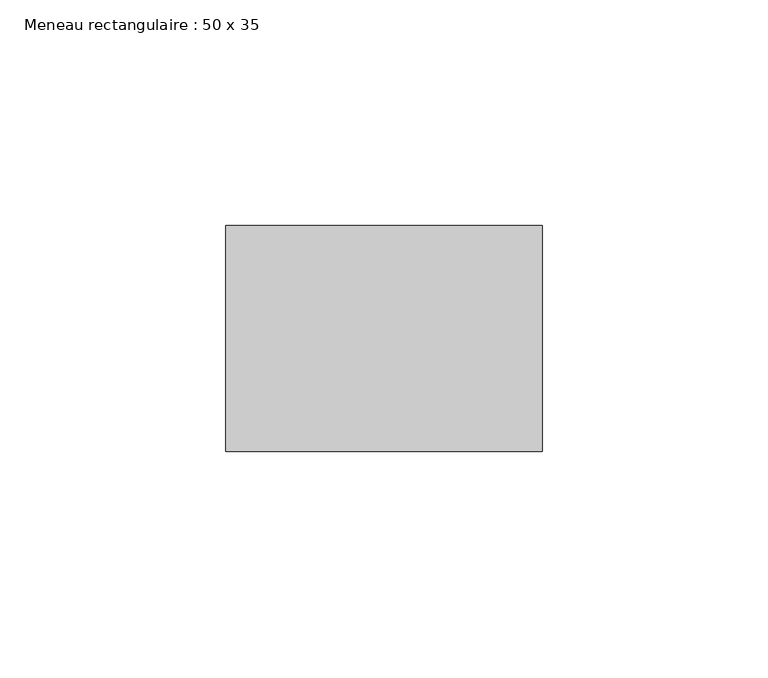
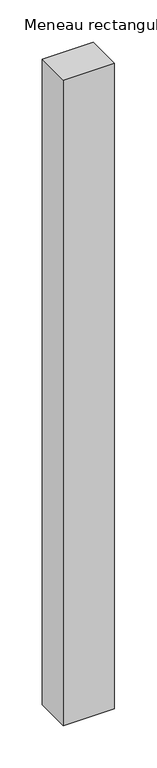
"""IFC4 building model written with IfcOpenShell, lengths in millimetres: member geometry, Meneau rectangulaire : 50 x 35."""

from ifc_helpers import new_model, si_unit, frame, origin, place, context, project, spatial, polyline, outline, extrude, source, transform, mapped, element, save


def meneau_rectangulaire_50_x_35_28dc46d5(model_context):
    return source(origin(), model_context, "Body", "SweptSolid", [
        extrude(outline(polyline([(35.0, 0.0), (35.0, -50.0), (-35.0, -50.0), (-35.0, 0.0), (35.0, 0.0)])), frame((0.0, 0.0, -935.0), z_axis=(0.0, 0.0, 1.0), x_axis=(1.0, 0.0, 0.0)), (0.0, 0.0, 1.0), 935.0),
    ])


if __name__ == "__main__":
    model = new_model("IFC4")
    model_context = context("Model", 3, world=origin())
    ifc_project = project(units=[si_unit("LENGTHUNIT", "METRE", prefix="MILLI")], contexts=[model_context])
    site = spatial("IfcSite", under=ifc_project)
    building = spatial("IfcBuilding", under=site)
    placement = place(None, origin())
    meneau_rectangulaire_50_x_35_shape = meneau_rectangulaire_50_x_35_28dc46d5(model_context)
    element("IfcMember", 1, ObjectType="Meneau rectangulaire : 50 x 35", at=placement, inside=building, context=model_context, shape_type="MappedRepresentation", body=[
        mapped(meneau_rectangulaire_50_x_35_shape, transform((0.0, 0.0, 0.0), x_axis=(1.0, 0.0, 0.0), y_axis=(0.0, 1.0, 0.0), z_axis=(0.0, 0.0, 1.0))),
    ])
    save(model, "model.ifc")
